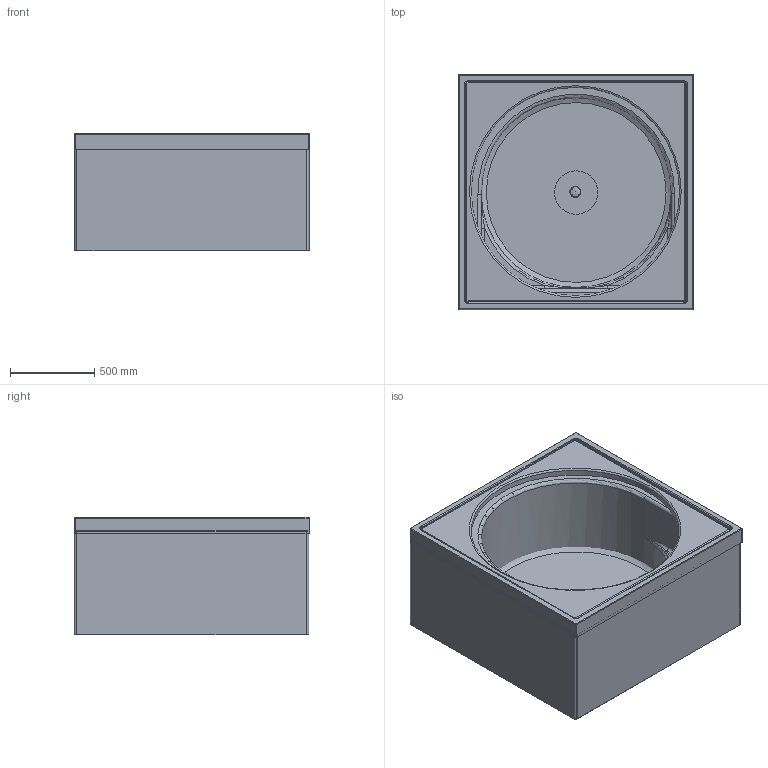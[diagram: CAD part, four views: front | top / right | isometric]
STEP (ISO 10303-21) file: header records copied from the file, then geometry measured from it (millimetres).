
FILE_DESCRIPTION((''),'2;1');
FILE_NAME('C:\Dokumente und Einstellungen\Andreas\Desktop\DURAVIT WINDOWS\ÄnderungenNeuheiten 4\Änderung Blue Moon\3D_ÄNDERUNGEN_BLUE MOON\stp\700143mAEuV.stp','2009-06-30T10:33:55',('Andreas'),(''),'Autodesk Inventor 2009','Autodesk Inventor 2009','');
FILE_SCHEMA(('AUTOMOTIVE_DESIGN { 1 0 10303 214 1 1 1 1 }'));
Length unit declared in the file: millimetre
Products named in the file (6): 700143mAEuV; 700143; Kelch; Stopfen; 790852; 8750
Assembly tree (7 placements, depth 2):
  700143mAEuV
    700143
    Kelch  x2
    Stopfen  x2
    790852
    8750
Bounding box: 1400 x 1402.63 x 700 mm (x, y, z)
Volume: 105354265.6 mm3; surface area: 23394768.8 mm2
Topology: 8 solids, 8 shells, 279 faces, 663 edges, 400 vertices
Faces by surface type: cylinder 106, plane 104, torus 30, bspline 27, cone 8, sphere 4
Full cylindrical faces by diameter (mm): 42 x2, 44 x2, 52 x4, 60 x2, 258.158 x1, 1070 x1, 1130 x1, 1150 x1, 1240 x1, 1279.166 x1
Entity records: 10083 total; most frequent: CARTESIAN_POINT 4406, DIRECTION 1201, ORIENTED_EDGE 1088, EDGE_CURVE 544, AXIS2_PLACEMENT_3D 467, VERTEX_POINT 343, EDGE_LOOP 295, VECTOR 267
